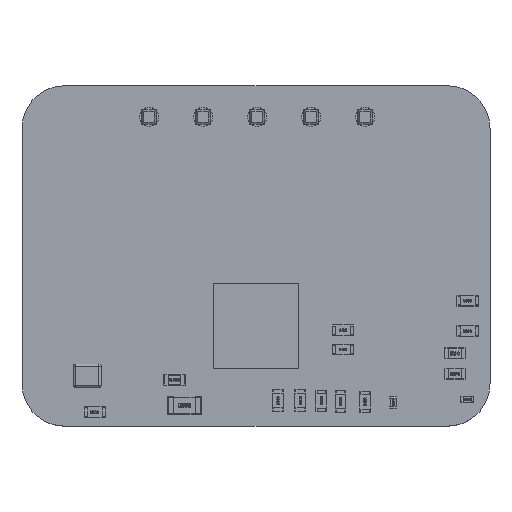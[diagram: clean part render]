
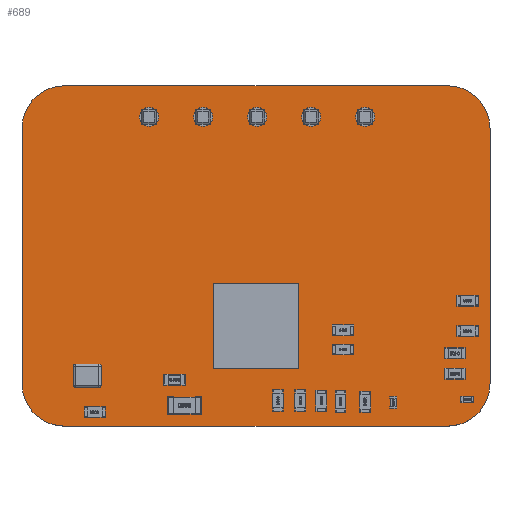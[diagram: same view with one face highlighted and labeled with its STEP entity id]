
A CAD part, top view. The second image highlights one B-rep face of the part: STEP entity #689.
In plain terms, the highlighted planar face has unit normal (0, 0, 1).
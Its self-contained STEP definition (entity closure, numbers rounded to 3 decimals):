
#244 = VERTEX_POINT('',#245);
#245 = CARTESIAN_POINT('',(151.535,30.165,0.989));
#251 = EDGE_CURVE('',#244,#252,#254,.T.);
#252 = VERTEX_POINT('',#253);
#253 = CARTESIAN_POINT('',(151.535,42.165,0.989));
#254 = LINE('',#255,#256);
#255 = CARTESIAN_POINT('',(151.535,30.165,0.989));
#256 = VECTOR('',#257,1.);
#257 = DIRECTION('',(0.,1.,0.));
#282 = EDGE_CURVE('',#252,#283,#285,.T.);
#283 = VERTEX_POINT('',#284);
#284 = CARTESIAN_POINT('',(153.535,44.165,0.989));
#285 = CIRCLE('',#286,1.999);
#286 = AXIS2_PLACEMENT_3D('',#287,#288,#289);
#287 = CARTESIAN_POINT('',(153.534,42.166,0.989));
#288 = DIRECTION('',(0.,0.,-1.));
#289 = DIRECTION('',(-1.,0.,0.));
#315 = EDGE_CURVE('',#283,#316,#318,.T.);
#316 = VERTEX_POINT('',#317);
#317 = CARTESIAN_POINT('',(171.535,44.165,0.989));
#318 = LINE('',#319,#320);
#319 = CARTESIAN_POINT('',(153.535,44.165,0.989));
#320 = VECTOR('',#321,1.);
#321 = DIRECTION('',(1.,0.,0.));
#346 = EDGE_CURVE('',#316,#347,#349,.T.);
#347 = VERTEX_POINT('',#348);
#348 = CARTESIAN_POINT('',(173.535,42.165,0.989));
#349 = CIRCLE('',#350,2.001);
#350 = AXIS2_PLACEMENT_3D('',#351,#352,#353);
#351 = CARTESIAN_POINT('',(171.534,42.164,0.989));
#352 = DIRECTION('',(0.,0.,-1.));
#353 = DIRECTION('',(0.,1.,0.));
#379 = EDGE_CURVE('',#347,#380,#382,.T.);
#380 = VERTEX_POINT('',#381);
#381 = CARTESIAN_POINT('',(173.535,30.165,0.989));
#382 = LINE('',#383,#384);
#383 = CARTESIAN_POINT('',(173.535,42.165,0.989));
#384 = VECTOR('',#385,1.);
#385 = DIRECTION('',(0.,-1.,0.));
#410 = EDGE_CURVE('',#380,#411,#413,.T.);
#411 = VERTEX_POINT('',#412);
#412 = CARTESIAN_POINT('',(171.535,28.165,0.989));
#413 = CIRCLE('',#414,1.999);
#414 = AXIS2_PLACEMENT_3D('',#415,#416,#417);
#415 = CARTESIAN_POINT('',(171.536,30.164,0.989));
#416 = DIRECTION('',(0.,0.,-1.));
#417 = DIRECTION('',(1.,0.,0.));
#443 = EDGE_CURVE('',#411,#444,#446,.T.);
#444 = VERTEX_POINT('',#445);
#445 = CARTESIAN_POINT('',(153.535,28.165,0.989));
#446 = LINE('',#447,#448);
#447 = CARTESIAN_POINT('',(171.535,28.165,0.989));
#448 = VECTOR('',#449,1.);
#449 = DIRECTION('',(-1.,0.,0.));
#474 = EDGE_CURVE('',#444,#244,#475,.T.);
#475 = CIRCLE('',#476,1.997);
#476 = AXIS2_PLACEMENT_3D('',#477,#478,#479);
#477 = CARTESIAN_POINT('',(153.532,30.162,0.989));
#478 = DIRECTION('',(0.,0.,-1.));
#479 = DIRECTION('',(0.001,-1.,0.));
#500 = VERTEX_POINT('',#501);
#501 = CARTESIAN_POINT('',(160.496,42.7,0.989));
#507 = EDGE_CURVE('',#500,#500,#508,.T.);
#508 = CIRCLE('',#509,0.45);
#509 = AXIS2_PLACEMENT_3D('',#510,#511,#512);
#510 = CARTESIAN_POINT('',(160.046,42.7,0.989));
#511 = DIRECTION('',(0.,0.,1.));
#512 = DIRECTION('',(1.,0.,0.));
#533 = VERTEX_POINT('',#534);
#534 = CARTESIAN_POINT('',(157.956,42.7,0.989));
#540 = EDGE_CURVE('',#533,#533,#541,.T.);
#541 = CIRCLE('',#542,0.45);
#542 = AXIS2_PLACEMENT_3D('',#543,#544,#545);
#543 = CARTESIAN_POINT('',(157.506,42.7,0.989));
#544 = DIRECTION('',(0.,0.,1.));
#545 = DIRECTION('',(1.,0.,0.));
#566 = VERTEX_POINT('',#567);
#567 = CARTESIAN_POINT('',(168.116,42.7,0.989));
#573 = EDGE_CURVE('',#566,#566,#574,.T.);
#574 = CIRCLE('',#575,0.45);
#575 = AXIS2_PLACEMENT_3D('',#576,#577,#578);
#576 = CARTESIAN_POINT('',(167.666,42.7,0.989));
#577 = DIRECTION('',(0.,0.,1.));
#578 = DIRECTION('',(1.,0.,0.));
#599 = VERTEX_POINT('',#600);
#600 = CARTESIAN_POINT('',(163.036,42.7,0.989));
#606 = EDGE_CURVE('',#599,#599,#607,.T.);
#607 = CIRCLE('',#608,0.45);
#608 = AXIS2_PLACEMENT_3D('',#609,#610,#611);
#609 = CARTESIAN_POINT('',(162.586,42.7,0.989));
#610 = DIRECTION('',(0.,0.,1.));
#611 = DIRECTION('',(1.,0.,0.));
#632 = VERTEX_POINT('',#633);
#633 = CARTESIAN_POINT('',(165.576,42.7,0.989));
#639 = EDGE_CURVE('',#632,#632,#640,.T.);
#640 = CIRCLE('',#641,0.45);
#641 = AXIS2_PLACEMENT_3D('',#642,#643,#644);
#642 = CARTESIAN_POINT('',(165.126,42.7,0.989));
#643 = DIRECTION('',(0.,0.,1.));
#644 = DIRECTION('',(1.,0.,0.));
#689 = ADVANCED_FACE('',(#690,#700,#703,#706,#709,#712),#715,.T.);
#690 = FACE_BOUND('',#691,.F.);
#691 = EDGE_LOOP('',(#692,#693,#694,#695,#696,#697,#698,#699));
#692 = ORIENTED_EDGE('',*,*,#251,.T.);
#693 = ORIENTED_EDGE('',*,*,#282,.T.);
#694 = ORIENTED_EDGE('',*,*,#315,.T.);
#695 = ORIENTED_EDGE('',*,*,#346,.T.);
#696 = ORIENTED_EDGE('',*,*,#379,.T.);
#697 = ORIENTED_EDGE('',*,*,#410,.T.);
#698 = ORIENTED_EDGE('',*,*,#443,.T.);
#699 = ORIENTED_EDGE('',*,*,#474,.T.);
#700 = FACE_BOUND('',#701,.T.);
#701 = EDGE_LOOP('',(#702));
#702 = ORIENTED_EDGE('',*,*,#507,.F.);
#703 = FACE_BOUND('',#704,.T.);
#704 = EDGE_LOOP('',(#705));
#705 = ORIENTED_EDGE('',*,*,#540,.F.);
#706 = FACE_BOUND('',#707,.T.);
#707 = EDGE_LOOP('',(#708));
#708 = ORIENTED_EDGE('',*,*,#573,.F.);
#709 = FACE_BOUND('',#710,.T.);
#710 = EDGE_LOOP('',(#711));
#711 = ORIENTED_EDGE('',*,*,#606,.F.);
#712 = FACE_BOUND('',#713,.T.);
#713 = EDGE_LOOP('',(#714));
#714 = ORIENTED_EDGE('',*,*,#639,.F.);
#715 = PLANE('',#716);
#716 = AXIS2_PLACEMENT_3D('',#717,#718,#719);
#717 = CARTESIAN_POINT('',(151.535,30.165,0.989));
#718 = DIRECTION('',(0.,0.,1.));
#719 = DIRECTION('',(1.,0.,0.));
